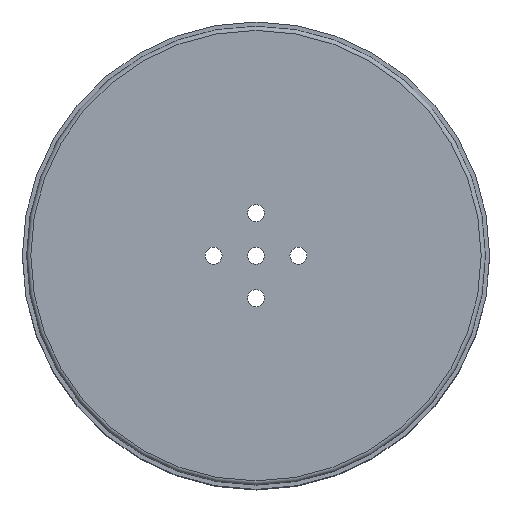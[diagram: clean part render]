
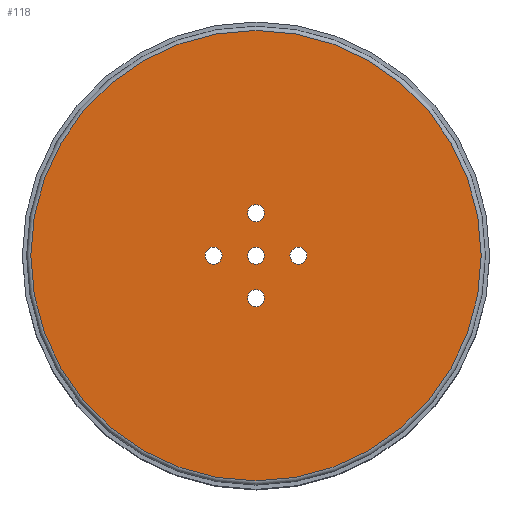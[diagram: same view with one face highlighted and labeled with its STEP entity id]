
A CAD part, top view. The second image highlights one B-rep face of the part: STEP entity #118.
In plain terms, the highlighted planar face has unit normal (0, 0, 1).
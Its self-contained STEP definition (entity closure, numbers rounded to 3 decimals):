
#118 = ADVANCED_FACE( '', ( #238, #239, #240, #241, #242, #243 ), #244, .T. );
#238 = FACE_BOUND( '', #388, .T. );
#239 = FACE_BOUND( '', #389, .T. );
#240 = FACE_BOUND( '', #390, .T. );
#241 = FACE_BOUND( '', #391, .T. );
#242 = FACE_BOUND( '', #392, .T. );
#243 = FACE_OUTER_BOUND( '', #393, .T. );
#244 = PLANE( '', #394 );
#388 = EDGE_LOOP( '', ( #546 ) );
#389 = EDGE_LOOP( '', ( #547 ) );
#390 = EDGE_LOOP( '', ( #548 ) );
#391 = EDGE_LOOP( '', ( #549 ) );
#392 = EDGE_LOOP( '', ( #550 ) );
#393 = EDGE_LOOP( '', ( #551 ) );
#394 = AXIS2_PLACEMENT_3D( '', #552, #553, #554 );
#546 = ORIENTED_EDGE( '', *, *, #714, .F. );
#547 = ORIENTED_EDGE( '', *, *, #715, .F. );
#548 = ORIENTED_EDGE( '', *, *, #716, .F. );
#549 = ORIENTED_EDGE( '', *, *, #709, .F. );
#550 = ORIENTED_EDGE( '', *, *, #717, .F. );
#551 = ORIENTED_EDGE( '', *, *, #690, .T. );
#552 = CARTESIAN_POINT( '', ( -27., 0., 18. ) );
#553 = DIRECTION( '', ( 0., 0., 1. ) );
#554 = DIRECTION( '', ( 1., 0., 0. ) );
#690 = EDGE_CURVE( '', #760, #760, #761, .T. );
#709 = EDGE_CURVE( '', #791, #791, #792, .T. );
#714 = EDGE_CURVE( '', #799, #799, #800, .T. );
#715 = EDGE_CURVE( '', #801, #801, #802, .T. );
#716 = EDGE_CURVE( '', #803, #803, #804, .T. );
#717 = EDGE_CURVE( '', #805, #805, #806, .T. );
#760 = VERTEX_POINT( '', #864 );
#761 = CIRCLE( '', #865, 26.5 );
#791 = VERTEX_POINT( '', #895 );
#792 = CIRCLE( '', #896, 1. );
#799 = VERTEX_POINT( '', #903 );
#800 = CIRCLE( '', #904, 1. );
#801 = VERTEX_POINT( '', #905 );
#802 = CIRCLE( '', #906, 1. );
#803 = VERTEX_POINT( '', #907 );
#804 = CIRCLE( '', #908, 1. );
#805 = VERTEX_POINT( '', #909 );
#806 = CIRCLE( '', #910, 1. );
#864 = CARTESIAN_POINT( '', ( 26.5, 0., 18. ) );
#865 = AXIS2_PLACEMENT_3D( '', #968, #969, #970 );
#895 = CARTESIAN_POINT( '', ( 6., 0., 18. ) );
#896 = AXIS2_PLACEMENT_3D( '', #1004, #1005, #1006 );
#903 = CARTESIAN_POINT( '', ( 1., 0., 18. ) );
#904 = AXIS2_PLACEMENT_3D( '', #1013, #1014, #1015 );
#905 = CARTESIAN_POINT( '', ( -4., 0., 18. ) );
#906 = AXIS2_PLACEMENT_3D( '', #1016, #1017, #1018 );
#907 = CARTESIAN_POINT( '', ( 1., 5., 18. ) );
#908 = AXIS2_PLACEMENT_3D( '', #1019, #1020, #1021 );
#909 = CARTESIAN_POINT( '', ( 1., -5., 18. ) );
#910 = AXIS2_PLACEMENT_3D( '', #1022, #1023, #1024 );
#968 = CARTESIAN_POINT( '', ( 0., 0., 18. ) );
#969 = DIRECTION( '', ( 0., 0., 1. ) );
#970 = DIRECTION( '', ( 1., 0., 0. ) );
#1004 = CARTESIAN_POINT( '', ( 5., 0., 18. ) );
#1005 = DIRECTION( '', ( 0., 0., 1. ) );
#1006 = DIRECTION( '', ( 1., 0., 0. ) );
#1013 = CARTESIAN_POINT( '', ( 0., 0., 18. ) );
#1014 = DIRECTION( '', ( 0., 0., 1. ) );
#1015 = DIRECTION( '', ( 1., 0., 0. ) );
#1016 = CARTESIAN_POINT( '', ( -5., 0., 18. ) );
#1017 = DIRECTION( '', ( 0., 0., 1. ) );
#1018 = DIRECTION( '', ( 1., 0., 0. ) );
#1019 = CARTESIAN_POINT( '', ( 0., 5., 18. ) );
#1020 = DIRECTION( '', ( 0., 0., 1. ) );
#1021 = DIRECTION( '', ( 1., 0., 0. ) );
#1022 = CARTESIAN_POINT( '', ( 0., -5., 18. ) );
#1023 = DIRECTION( '', ( 0., 0., 1. ) );
#1024 = DIRECTION( '', ( 1., 0., 0. ) );
